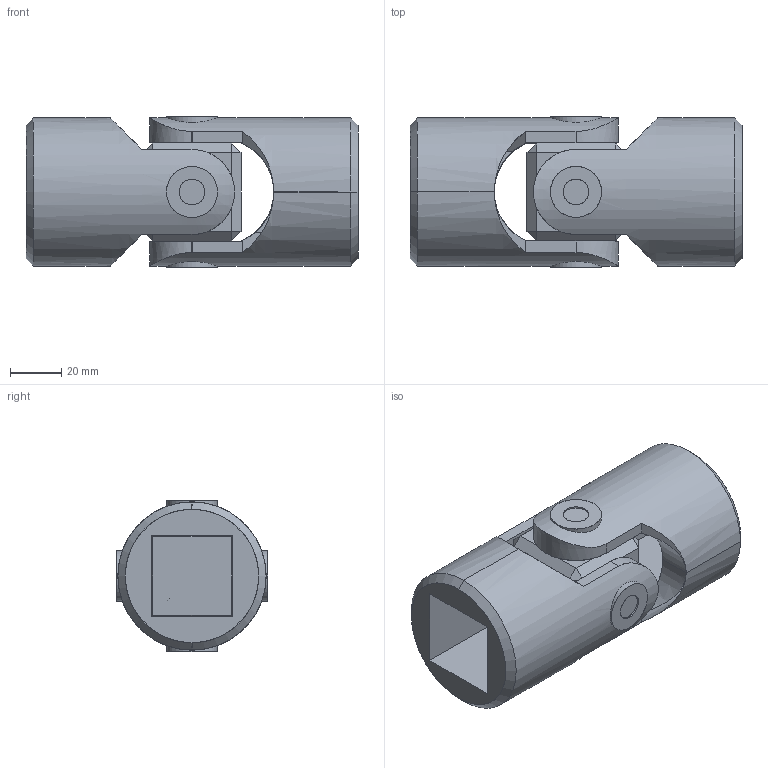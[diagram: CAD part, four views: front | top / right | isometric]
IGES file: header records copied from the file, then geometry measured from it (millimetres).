
Start section: SolidWorks IGES file using analytic representation for surfaces
Global section: file name: C:\Users\IanO\Desktop\R3690_v2\R3690_v2_20231020_IGES\R3690.032-SB.igs; native system: SolidWorks 2019; preprocessor: SolidWorks 2019; author: IanO; date: 231020.153103; units: millimetre
Bounding box: 130 x 59.16 x 59.16 mm (x, y, z)
Surface area: 59293.5 mm2 (no closed solid volume)
Topology: 0 solids, 0 shells, 108 faces, 2248 edges, 2248 vertices
Faces by surface type: bspline 64, revolution 44
